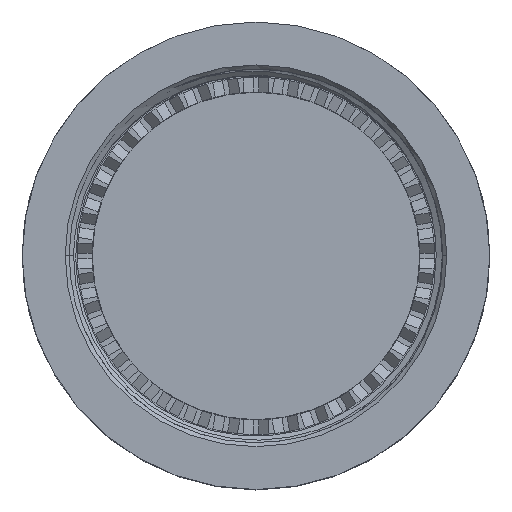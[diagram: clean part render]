
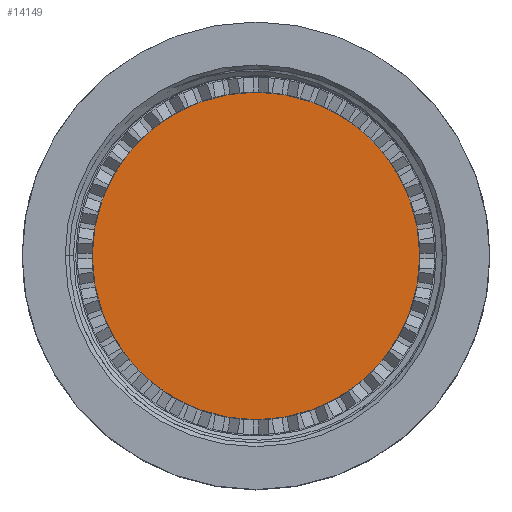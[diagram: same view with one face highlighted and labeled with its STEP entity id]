
A CAD part, top view. The second image highlights one B-rep face of the part: STEP entity #14149.
In plain terms, the highlighted planar face has unit normal (0, 0, 1).
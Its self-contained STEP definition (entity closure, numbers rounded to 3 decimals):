
#81 = AXIS2_PLACEMENT_3D ( 'NONE', #11011, #5776, #10771 ) ;
#305 = CARTESIAN_POINT ( 'NONE',  ( 0., 0., -1.986 ) ) ;
#1074 = VERTEX_POINT ( 'NONE', #1088 ) ;
#1088 = CARTESIAN_POINT ( 'NONE',  ( 13.513, 0., -1.986 ) ) ;
#1703 = DIRECTION ( 'NONE',  ( -1., 0., 0. ) ) ;
#3625 = ORIENTED_EDGE ( 'NONE', *, *, #13274, .T. ) ;
#4283 = CIRCLE ( 'NONE', #81, 13.513 ) ;
#5776 = DIRECTION ( 'NONE',  ( 0., 0., 1. ) ) ;
#6112 = AXIS2_PLACEMENT_3D ( 'NONE', #305, #7940, #1703 ) ;
#7940 = DIRECTION ( 'NONE',  ( 0., 0., 1. ) ) ;
#8109 = DIRECTION ( 'NONE',  ( 0., 0., -1. ) ) ;
#9838 = EDGE_LOOP ( 'NONE', ( #10466, #3625 ) ) ;
#10002 = AXIS2_PLACEMENT_3D ( 'NONE', #13452, #8109, #15584 ) ;
#10466 = ORIENTED_EDGE ( 'NONE', *, *, #14608, .T. ) ;
#10771 = DIRECTION ( 'NONE',  ( -1., 0., 0. ) ) ;
#10875 = VERTEX_POINT ( 'NONE', #14732 ) ;
#10903 = FACE_OUTER_BOUND ( 'NONE', #9838, .T. ) ;
#11011 = CARTESIAN_POINT ( 'NONE',  ( 0., 0., -1.986 ) ) ;
#11078 = CIRCLE ( 'NONE', #6112, 13.513 ) ;
#13274 = EDGE_CURVE ( 'NONE', #10875, #1074, #11078, .T. ) ;
#13369 = PLANE ( 'NONE',  #10002 ) ;
#13452 = CARTESIAN_POINT ( 'NONE',  ( 0., 0., -1.986 ) ) ;
#14149 = ADVANCED_FACE ( 'NONE', ( #10903 ), #13369, .F. ) ;
#14608 = EDGE_CURVE ( 'NONE', #1074, #10875, #4283, .T. ) ;
#14732 = CARTESIAN_POINT ( 'NONE',  ( -13.513, 0., -1.986 ) ) ;
#15584 = DIRECTION ( 'NONE',  ( -1., 0., 0. ) ) ;
